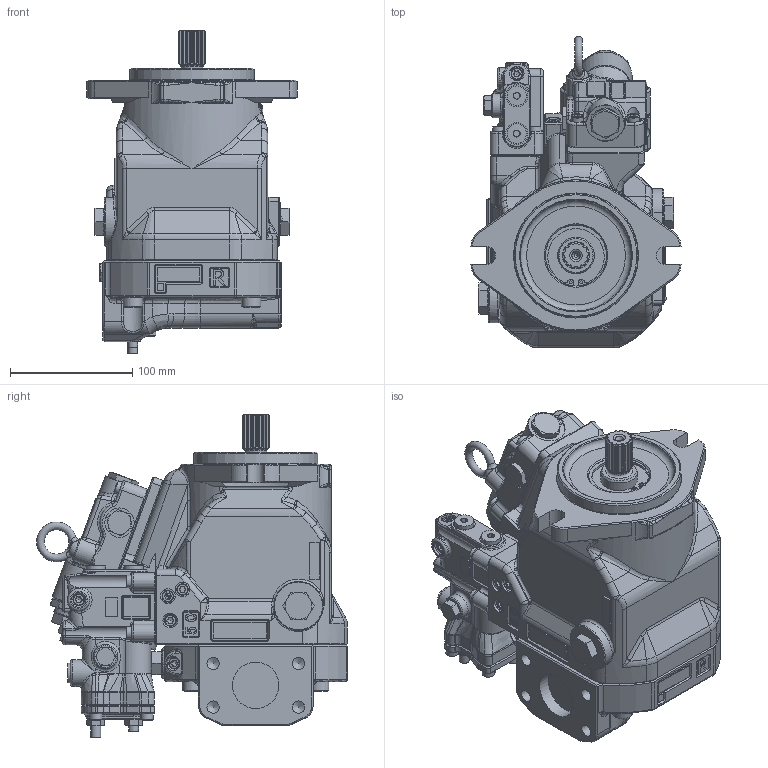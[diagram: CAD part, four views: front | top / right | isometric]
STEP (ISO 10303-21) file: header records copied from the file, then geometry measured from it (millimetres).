
FILE_DESCRIPTION(/* description */ (''),/* implementation_level */ '2;1');
FILE_NAME(/* name */ 'K3VLS50-10LBH-L1ABH2.stp',/* time_stamp */ '2025-09-25T09:29:09+01:00',/* author */ ('jhatcher'),/* organization */ (''),/* preprocessor_version */ 'ST-DEVELOPER v20',/* originating_system */ 'Autodesk Inventor 2024',/* authorisation */ '');
FILE_SCHEMA (('AUTOMOTIVE_DESIGN { 1 0 10303 214 3 1 1 }'));
Products named in the file (1): K3VLS50-10LBH-L1ABH2
Bounding box: 172 x 254.42 x 265 mm (x, y, z)
Volume: 4140183.9 mm3; surface area: 237586.1 mm2
Topology: 1 solids, 1 shells, 3348 faces, 8497 edges, 5201 vertices
Faces by surface type: plane 1342, cylinder 803, bspline 624, cone 390, torus 173, sphere 16
Full cylindrical faces by diameter (mm): 2.5 x2, 3.15 x1, 4 x3, 8 x3, 8.376 x4, 9.4 x11, 9.738 x1, 10 x12, 10.106 x4, 11 x12, 12 x11, 16 x7, 17.5 x4, 18 x5, 20 x1, 21 x1, 22 x1, 24 x2, 25 x1, 30 x1, 33 x1, 35 x1, 38 x1, 50 x1, 53 x1, 101.6 x1
Entity records: 121650 total; most frequent: CARTESIAN_POINT 45486, ORIENTED_EDGE 16750, DIRECTION 14589, EDGE_CURVE 8375, AXIS2_PLACEMENT_3D 5319, VERTEX_POINT 5201, LINE 3951, VECTOR 3951
